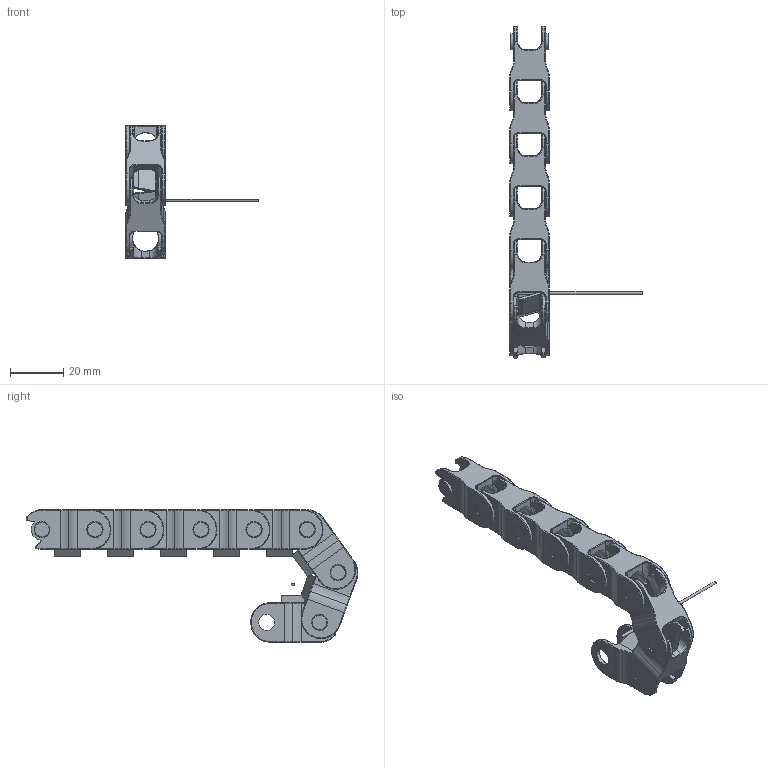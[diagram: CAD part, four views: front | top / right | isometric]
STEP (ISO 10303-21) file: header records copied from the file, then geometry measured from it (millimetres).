
FILE_DESCRIPTION((''),'2;1');
FILE_NAME('C:\Uebbing\PARAMETERKETTEN\KOLIBRI\Kol_15_015_4\KOLIBRI 15_015_4_R17_5.stp','2012-03-02T14:56:40',('Uebbing'),(''),'Autodesk Inventor 10','Autodesk Inventor 10','');
FILE_SCHEMA(('AUTOMOTIVE_DESIGN { 1 0 10303 214 1 1 1 1 }'));
Length unit declared in the file: millimetre
Products named in the file (3): KOLIBRI 15_015_4_PARAMETRISCH; Kol_15_015_4; Achse
Assembly tree (9 placements, depth 2):
  KOLIBRI 15_015_4_PARAMETRISCH
    Kol_15_015_4  x8
    Achse
Bounding box: 50 x 125.15 x 50 mm (x, y, z)
Volume: 14701.2 mm3; surface area: 18497.3 mm2
Topology: 9 solids, 9 shells, 963 faces, 2356 edges, 1427 vertices
Faces by surface type: bspline 960, plane 2, cylinder 1
Full cylindrical faces by diameter (mm): 1 x1
Entity records: 5724 total; most frequent: CARTESIAN_POINT 3159, ORIENTED_EDGE 574, DIRECTION 426, EDGE_CURVE 287, VERTEX_POINT 177, AXIS2_PLACEMENT_3D 149, EDGE_LOOP 136, CIRCLE 130
